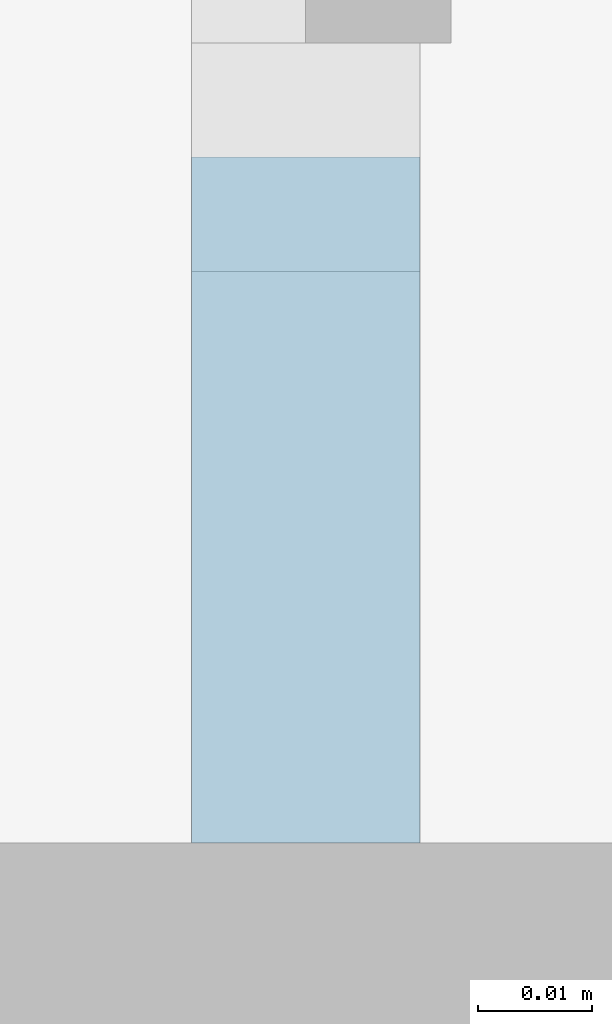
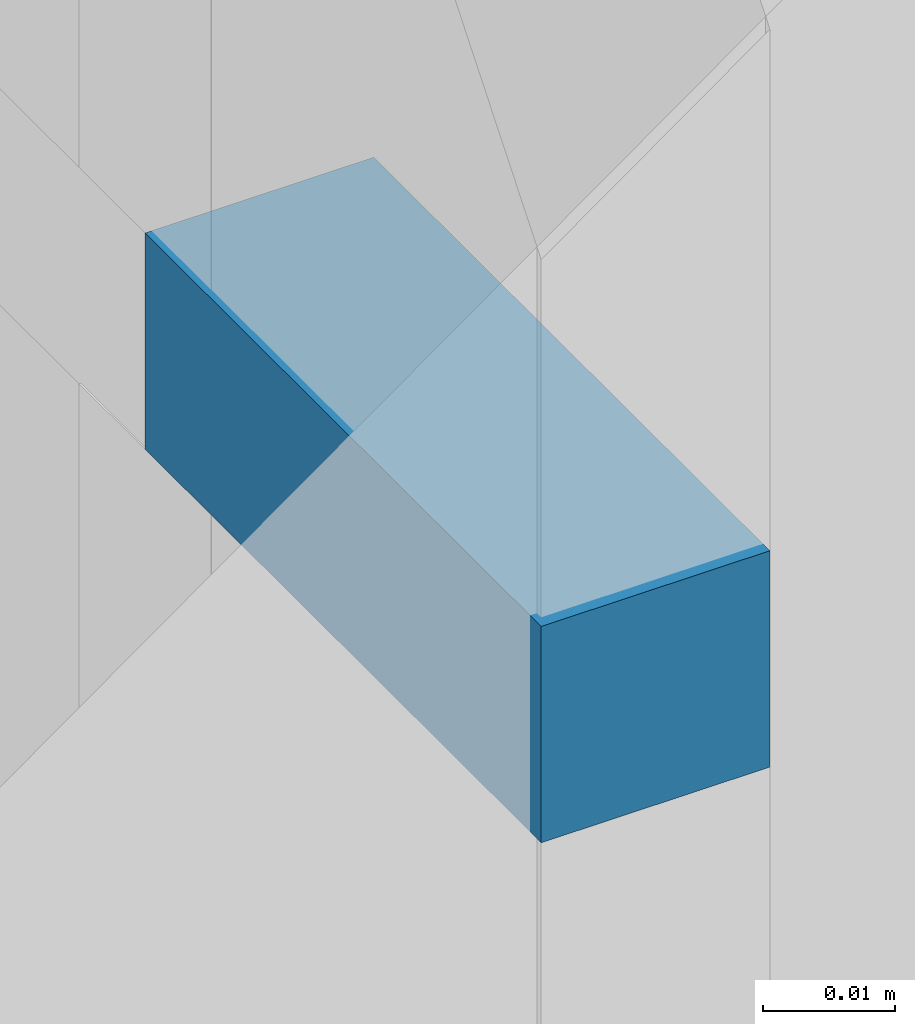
# One storey, part 12 of 66: 1 member, 1 element without a shape of its own.
"""IFC2X3 building model written with IfcOpenShell, lengths in millimetres."""

from ifc_helpers import new_model, entity, si_unit, converted_unit, derived_unit, direction, frame, origin, origin_2d_with_axis, place, context, subcontext, project, spatial, rectangle, extrude, source, transform, mapped, material, type_object, type_shapes, element, aggregate, save


model = new_model("IFC2X3")

# Units and contexts
model_context = context("Model", 3, precision=0.01, world=origin(), true_north=direction((6.12303176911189e-17, 1.0)))
body_context = subcontext(model_context, "Body", "Model", "MODEL_VIEW")
ifc_project = project(units=[si_unit("LENGTHUNIT", "METRE", prefix="MILLI"), si_unit("AREAUNIT", "SQUARE_METRE"), si_unit("VOLUMEUNIT", "CUBIC_METRE"), converted_unit("PLANEANGLEUNIT", "DEGREE", entity("IfcRatioMeasure", 0.0174532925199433), si_unit("PLANEANGLEUNIT", "RADIAN"), dimensions=[0, 0, 0, 0, 0, 0, 0]), si_unit("MASSUNIT", "GRAM", prefix="KILO"), derived_unit("MASSDENSITYUNIT", [(si_unit("MASSUNIT", "GRAM", prefix="KILO"), 1), (si_unit("LENGTHUNIT", "METRE"), -3)]), si_unit("TIMEUNIT", "SECOND"), si_unit("FREQUENCYUNIT", "HERTZ"), si_unit("THERMODYNAMICTEMPERATUREUNIT", "DEGREE_CELSIUS"), derived_unit("THERMALTRANSMITTANCEUNIT", [(si_unit("MASSUNIT", "GRAM", prefix="KILO"), 1), (si_unit("THERMODYNAMICTEMPERATUREUNIT", "KELVIN"), -1), (si_unit("TIMEUNIT", "SECOND"), -3)]), derived_unit("VOLUMETRICFLOWRATEUNIT", [(si_unit("LENGTHUNIT", "METRE"), 3), (si_unit("TIMEUNIT", "SECOND"), -1)]), si_unit("ELECTRICCURRENTUNIT", "AMPERE"), si_unit("ELECTRICVOLTAGEUNIT", "VOLT"), si_unit("POWERUNIT", "WATT"), si_unit("FORCEUNIT", "NEWTON", prefix="KILO"), si_unit("ILLUMINANCEUNIT", "LUX"), si_unit("LUMINOUSFLUXUNIT", "LUMEN"), si_unit("LUMINOUSINTENSITYUNIT", "CANDELA"), derived_unit("USERDEFINED", [(si_unit("MASSUNIT", "GRAM", prefix="KILO"), -1), (si_unit("LENGTHUNIT", "METRE"), -2), (si_unit("TIMEUNIT", "SECOND"), 3), (si_unit("LUMINOUSFLUXUNIT", "LUMEN"), 1)]), derived_unit("LINEARVELOCITYUNIT", [(si_unit("LENGTHUNIT", "METRE"), 1), (si_unit("TIMEUNIT", "SECOND"), -1)]), si_unit("PRESSUREUNIT", "PASCAL"), derived_unit("USERDEFINED", [(si_unit("LENGTHUNIT", "METRE"), -2), (si_unit("MASSUNIT", "GRAM", prefix="KILO"), 1), (si_unit("TIMEUNIT", "SECOND"), -2)])], contexts=[model_context])

# Site, building, storey
site_placement = place(None, frame((-151.875543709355, 2715.0, 0.0)))
site = spatial("IfcSite", under=ifc_project, at=site_placement, Name="Surface", CompositionType="ELEMENT")
building_placement = place(site_placement, origin())
building = spatial("IfcBuilding", under=site, at=building_placement, CompositionType="ELEMENT")
storey_placement = place(building_placement, frame((0.0, 0.0, 3350.0)))
storey = spatial("IfcBuildingStorey", under=building, at=storey_placement, Name="2 korrus", CompositionType="ELEMENT", Elevation=3350.00000000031)

# Curtain wall, member
curtain_wall_type = type_object("IfcCurtainWallType", Name="Curtain Wall:Klaassein KLS-05", PredefinedType="NOTDEFINED")
curtain_wall_placement = place(storey_placement, frame((0.0, 0.0, -3350.0)))
curtain_wall = element("IfcCurtainWall", 1, at=curtain_wall_placement, inside=storey, type_object=curtain_wall_type, Name="Curtain Wall:Klaassein KLS-05", ObjectType="Curtain Wall:Klaassein KLS-05")
ifc_material = material(Name="__Uks_hele tamm")
member_type = type_object("IfcMemberType", Name="20 x 20mm", PredefinedType="MEMBER")
shared_shape = source(origin(), body_context, "Body", "SweptSolid", [
    extrude(rectangle(XDim=20.0, YDim=20.0, at=origin_2d_with_axis()), frame((0.0, 0.0, -60.0), z_axis=(0.0, 0.0, 1.0), x_axis=(0.0, -1.0, 0.0)), (0.0, 0.0, 1.0), 60.0000000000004),
])
type_shapes(member_type, [shared_shape])
member_placement = place(storey_placement, frame((24073.28599988, 6560.0, 2090.0), z_axis=(0.0, -1.0, 0.0), x_axis=(0.0, 0.0, 1.0)))
member = element("IfcMember", 2, at=member_placement, type_object=member_type, material=ifc_material, Name="Rectangular Mullion:20 x 20mm", ObjectType="20 x 20mm", context=body_context, shape_type="MappedRepresentation", body=[
    mapped(shared_shape, transform((0.0, 0.0, 0.0), scale=1.0)),
])
aggregate(curtain_wall, [member])

save(model, "model.ifc")
